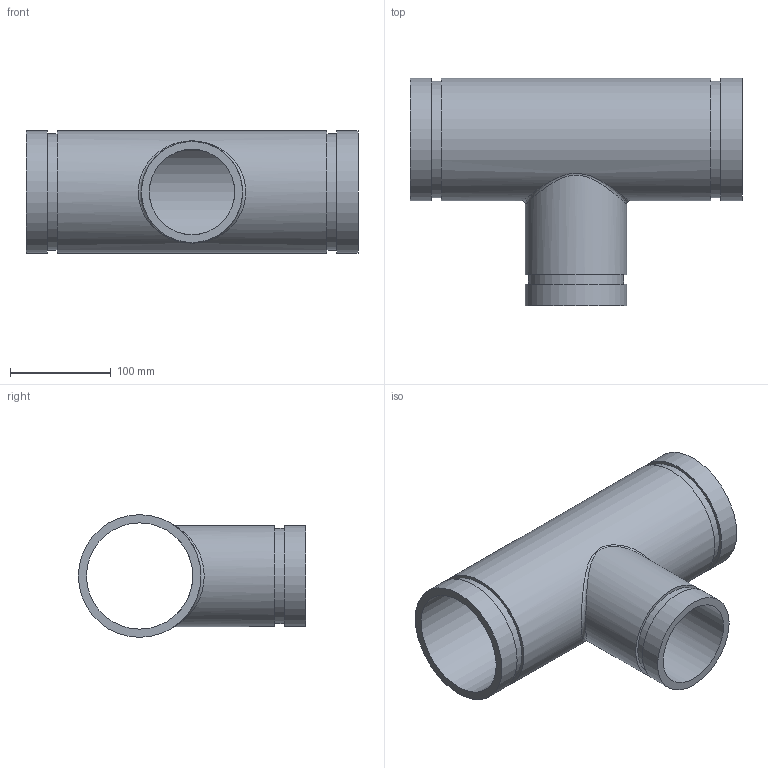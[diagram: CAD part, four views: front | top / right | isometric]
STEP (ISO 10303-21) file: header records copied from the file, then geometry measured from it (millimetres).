
FILE_DESCRIPTION(/* description */ ('VIC REDUCING TEE No 25-C','CAx-IF Rec.Pracs.---Representation and Presentation of Product Manufacturing Information (PMI)---4.0---2014-10-13'),/* implementation_level */ '2;1');
FILE_NAME(/* name */ 'C:\Users\Vjadhav\AppData\Roaming\Autodesk\ApplicationPlugins\Back Up\Victaulic_AWWA_Tee Reducing_No 25-C (DRG)\Victaulic_AWWA_Tee Reducing_No 25-C (DRG)_04.0x03.0 (100x80).stp',/* time_stamp */ '2020-08-18T18:17:37+06:00',/* author */ ('CORINNE GRAY'),/* organization */ ('Victaulic'),/* preprocessor_version */ 'ST-DEVELOPER v17.2',/* originating_system */ 'Autodesk Inventor 2019',/* authorisation */ '');
FILE_SCHEMA (('AP242_MANAGED_MODEL_BASED_3D_ENGINEERING_MIM_LF { 1 0 10303 442 1 1 4 }'));
Length unit declared in the file: inch
Products named in the file (1): 25C-04.0x03.0
Bounding box: 330.2 x 226.06 x 121.92 mm (x, y, z)
Volume: 1141721.1 mm3; surface area: 304007.8 mm2
Topology: 1 solids, 1 shells, 20 faces, 44 edges, 33 vertices
Faces by surface type: cylinder 10, plane 9, bspline 1
Full cylindrical faces by diameter (mm): 84.836 x1, 94.564 x1, 100.584 x2, 105.664 x1, 115.9 x2, 121.92 x3
Entity records: 1045 total; most frequent: CARTESIAN_POINT 421, DIRECTION 135, ORIENTED_EDGE 90, AXIS2_PLACEMENT_3D 62, EDGE_CURVE 45, VERTEX_POINT 34, EDGE_LOOP 31, CIRCLE 29
